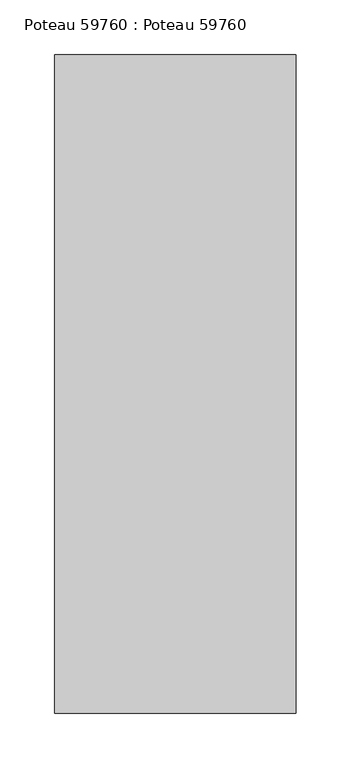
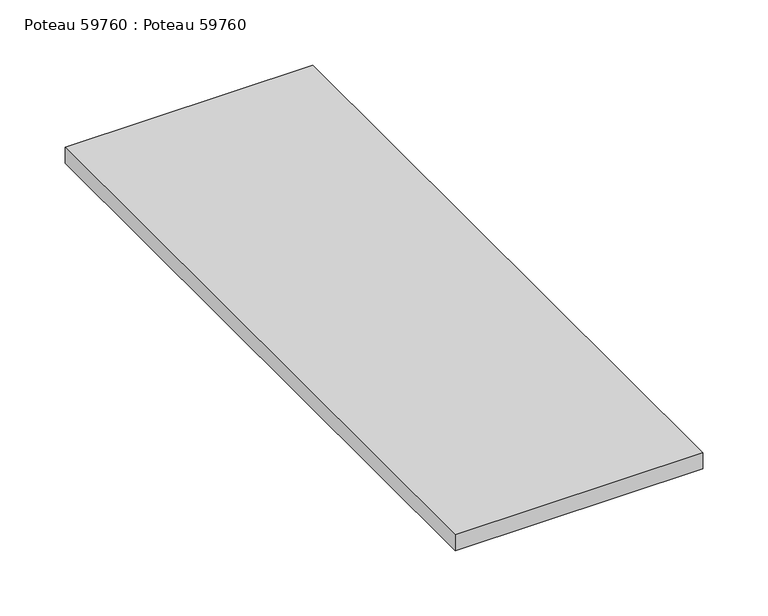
"""IFC4 building model written with IfcOpenShell, lengths in millimetres: beam geometry, Poteau 59760 : Poteau 59760."""

from ifc_helpers import new_model, si_unit, frame, origin, place, context, project, spatial, polyline, outline, extrude, source, transform, mapped, element, save


def poteau_59760_poteau_59760_fdbe92be(model_context):
    return source(origin(), model_context, "Body", "SweptSolid", [
        extrude(outline(polyline([(109.9999999, -33796.0), (109.9999999, -34396.0), (-110.0000001, -34396.0), (-110.0000001, -33796.0), (109.9999999, -33796.0)])), frame((0.0, 0.0, 8015.14), z_axis=(0.0, 0.0, 1.0), x_axis=(1.0, 0.0, 0.0)), (0.0, 0.0, 1.0), 15.0),
    ])


if __name__ == "__main__":
    model = new_model("IFC4")
    model_context = context("Model", 3, world=origin())
    ifc_project = project(units=[si_unit("LENGTHUNIT", "METRE", prefix="MILLI")], contexts=[model_context])
    site = spatial("IfcSite", under=ifc_project)
    building = spatial("IfcBuilding", under=site)
    placement = place(None, origin())
    poteau_59760_poteau_59760_shape = poteau_59760_poteau_59760_fdbe92be(model_context)
    element("IfcBeam", 1, ObjectType="Poteau 59760 : Poteau 59760", at=placement, inside=building, context=model_context, shape_type="MappedRepresentation", body=[
        mapped(poteau_59760_poteau_59760_shape, transform((0.0, 0.0, 0.0), x_axis=(1.0, 0.0, 0.0), y_axis=(0.0, 1.0, 0.0), z_axis=(0.0, 0.0, 1.0))),
    ])
    save(model, "model.ifc")
